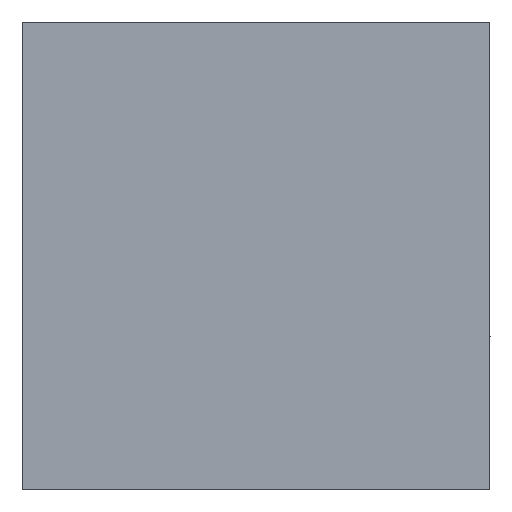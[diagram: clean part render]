
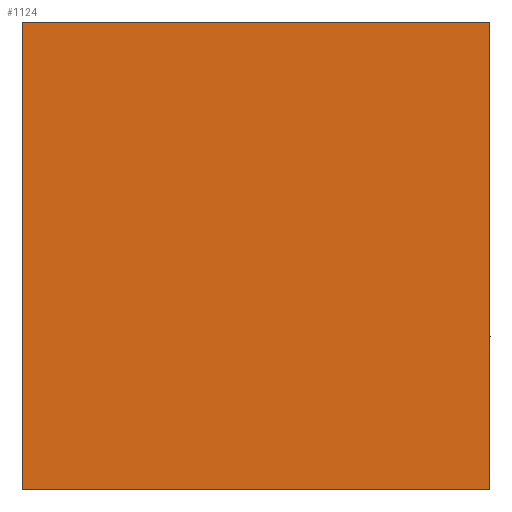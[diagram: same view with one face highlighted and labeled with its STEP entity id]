
A CAD part, front view. The second image highlights one B-rep face of the part: STEP entity #1124.
In plain terms, the highlighted planar face has unit normal (0, -1, 0).
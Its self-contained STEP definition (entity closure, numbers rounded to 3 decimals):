
#413=CARTESIAN_POINT('Vertex',(-60.,0.,60.)) ;
#416=CARTESIAN_POINT('Line Origine',(0.,0.,60.)) ;
#420=CARTESIAN_POINT('Vertex',(60.,0.,60.)) ;
#446=CARTESIAN_POINT('Vertex',(60.,0.,-60.)) ;
#449=CARTESIAN_POINT('Line Origine',(60.,0.,0.)) ;
#799=CARTESIAN_POINT('Vertex',(-60.,0.,-60.)) ;
#802=CARTESIAN_POINT('Line Origine',(0.,0.,-60.)) ;
#964=CARTESIAN_POINT('Line Origine',(-60.,0.,0.)) ;
#1113=CARTESIAN_POINT('Axis2P3D Location',(0.,0.,-0.)) ;
#417=DIRECTION('Vector Direction',(1.,0.,0.)) ;
#450=DIRECTION('Vector Direction',(0.,0.,-1.)) ;
#803=DIRECTION('Vector Direction',(-1.,0.,0.)) ;
#965=DIRECTION('Vector Direction',(0.,0.,1.)) ;
#1114=DIRECTION('Axis2P3D Direction',(0.,1.,-0.)) ;
#1115=DIRECTION('Axis2P3D XDirection',(0.,0.,1.)) ;
#1116=AXIS2_PLACEMENT_3D('Plane Axis2P3D',#1113,#1114,#1115) ;
#1119=ORIENTED_EDGE('',*,*,#806,.F.) ;
#1120=ORIENTED_EDGE('',*,*,#453,.F.) ;
#1121=ORIENTED_EDGE('',*,*,#422,.F.) ;
#1122=ORIENTED_EDGE('',*,*,#968,.F.) ;
#418=VECTOR('Line Direction',#417,1.) ;
#451=VECTOR('Line Direction',#450,1.) ;
#804=VECTOR('Line Direction',#803,1.) ;
#966=VECTOR('Line Direction',#965,1.) ;
#1124=ADVANCED_FACE('395V-04-120-300',(#1123),#1117,.F.) ;
#422=EDGE_CURVE('',#414,#421,#419,.T.) ;
#453=EDGE_CURVE('',#421,#447,#452,.T.) ;
#806=EDGE_CURVE('',#447,#800,#805,.T.) ;
#968=EDGE_CURVE('',#800,#414,#967,.T.) ;
#1118=EDGE_LOOP('',(#1119,#1120,#1121,#1122)) ;
#1123=FACE_OUTER_BOUND('',#1118,.T.) ;
#419=LINE('Line',#416,#418) ;
#452=LINE('Line',#449,#451) ;
#805=LINE('Line',#802,#804) ;
#967=LINE('Line',#964,#966) ;
#1117=PLANE('Plane',#1116) ;
#414=VERTEX_POINT('',#413) ;
#421=VERTEX_POINT('',#420) ;
#447=VERTEX_POINT('',#446) ;
#800=VERTEX_POINT('',#799) ;
